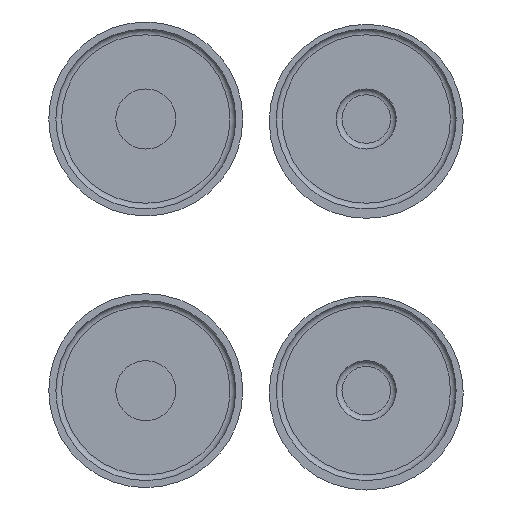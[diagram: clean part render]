
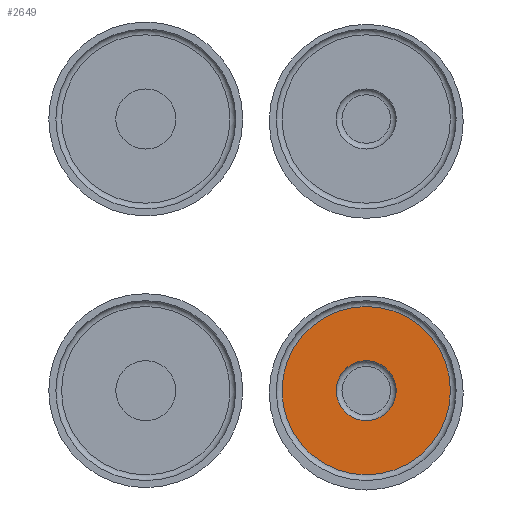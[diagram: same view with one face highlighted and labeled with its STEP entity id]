
A CAD part, front view. The second image highlights one B-rep face of the part: STEP entity #2649.
In plain terms, the highlighted planar face has unit normal (0, 1, 0).
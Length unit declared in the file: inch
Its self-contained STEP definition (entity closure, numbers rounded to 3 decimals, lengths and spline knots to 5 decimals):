
#132=CIRCLE('',#2850,5.22);
#138=CIRCLE('',#2861,14.645);
#221=FACE_BOUND('',#564,.T.);
#356=FACE_OUTER_BOUND('',#563,.T.);
#563=EDGE_LOOP('',(#2101));
#564=EDGE_LOOP('',(#2102));
#1344=VERTEX_POINT('',#4097);
#1350=VERTEX_POINT('',#4114);
#1629=EDGE_CURVE('',#1344,#1344,#132,.T.);
#1635=EDGE_CURVE('',#1350,#1350,#138,.T.);
#2101=ORIENTED_EDGE('',*,*,#1635,.F.);
#2102=ORIENTED_EDGE('',*,*,#1629,.T.);
#2494=PLANE('',#2864);
#2649=ADVANCED_FACE('',(#356,#221),#2494,.F.);
#2850=AXIS2_PLACEMENT_3D('',#4098,#3369,#3370);
#2861=AXIS2_PLACEMENT_3D('',#4115,#3391,#3392);
#2864=AXIS2_PLACEMENT_3D('',#4119,#3397,#3398);
#3369=DIRECTION('center_axis',(0.,-1.,0.));
#3370=DIRECTION('ref_axis',(-1.,0.,0.));
#3391=DIRECTION('center_axis',(0.,-1.,0.));
#3392=DIRECTION('ref_axis',(-1.,0.,0.));
#3397=DIRECTION('center_axis',(0.,-1.,0.));
#3398=DIRECTION('ref_axis',(0.,0.,-1.));
#4097=CARTESIAN_POINT('',(24.39,53.09,23.625));
#4098=CARTESIAN_POINT('Origin',(19.17,53.09,23.625));
#4114=CARTESIAN_POINT('',(33.815,53.09,23.625));
#4115=CARTESIAN_POINT('Origin',(19.17,53.09,23.625));
#4119=CARTESIAN_POINT('Origin',(19.17,53.09,23.625));
